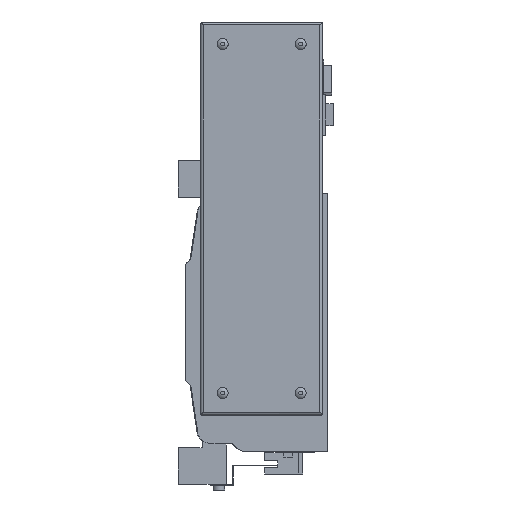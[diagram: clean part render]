
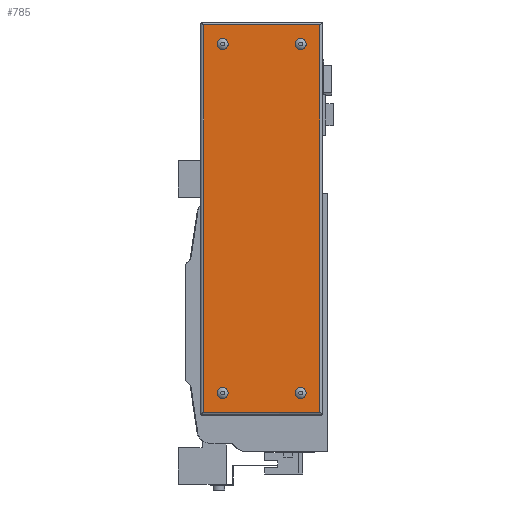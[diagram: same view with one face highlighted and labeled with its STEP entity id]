
A CAD part, left-side view. The second image highlights one B-rep face of the part: STEP entity #785.
In plain terms, the highlighted planar face has unit normal (-1, 0, 0).
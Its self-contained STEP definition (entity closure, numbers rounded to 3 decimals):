
#785 = ADVANCED_FACE( '', ( #1982, #1983, #1984, #1985, #1986 ), #1987, .F. );
#1982 = FACE_BOUND( '', #3785, .T. );
#1983 = FACE_BOUND( '', #3786, .T. );
#1984 = FACE_BOUND( '', #3787, .T. );
#1985 = FACE_BOUND( '', #3788, .T. );
#1986 = FACE_OUTER_BOUND( '', #3789, .T. );
#1987 = PLANE( '', #3790 );
#3785 = EDGE_LOOP( '', ( #5727 ) );
#3786 = EDGE_LOOP( '', ( #5728 ) );
#3787 = EDGE_LOOP( '', ( #5729 ) );
#3788 = EDGE_LOOP( '', ( #5730 ) );
#3789 = EDGE_LOOP( '', ( #5731, #5732, #5733, #5734 ) );
#3790 = AXIS2_PLACEMENT_3D( '', #5735, #5736, #5737 );
#5727 = ORIENTED_EDGE( '', *, *, #10557, .F. );
#5728 = ORIENTED_EDGE( '', *, *, #10558, .F. );
#5729 = ORIENTED_EDGE( '', *, *, #10559, .F. );
#5730 = ORIENTED_EDGE( '', *, *, #10560, .F. );
#5731 = ORIENTED_EDGE( '', *, *, #10561, .F. );
#5732 = ORIENTED_EDGE( '', *, *, #10562, .F. );
#5733 = ORIENTED_EDGE( '', *, *, #10563, .T. );
#5734 = ORIENTED_EDGE( '', *, *, #10564, .T. );
#5735 = CARTESIAN_POINT( '', ( -66., 0., 0. ) );
#5736 = DIRECTION( '', ( 1., 0., 0. ) );
#5737 = DIRECTION( '', ( 0., 0., -1. ) );
#10557 = EDGE_CURVE( '', #12591, #12591, #12592, .F. );
#10558 = EDGE_CURVE( '', #12593, #12593, #12594, .F. );
#10559 = EDGE_CURVE( '', #12595, #12595, #12596, .F. );
#10560 = EDGE_CURVE( '', #12597, #12597, #12598, .F. );
#10561 = EDGE_CURVE( '', #12599, #12600, #12601, .T. );
#10562 = EDGE_CURVE( '', #12602, #12599, #12603, .T. );
#10563 = EDGE_CURVE( '', #12602, #12604, #12605, .T. );
#10564 = EDGE_CURVE( '', #12604, #12600, #12606, .T. );
#12591 = VERTEX_POINT( '', #15544 );
#12592 = CIRCLE( '', #15545, 3.7 );
#12593 = VERTEX_POINT( '', #15546 );
#12594 = CIRCLE( '', #15547, 3.7 );
#12595 = VERTEX_POINT( '', #15548 );
#12596 = CIRCLE( '', #15549, 3.7 );
#12597 = VERTEX_POINT( '', #15550 );
#12598 = CIRCLE( '', #15551, 3.7 );
#12599 = VERTEX_POINT( '', #15552 );
#12600 = VERTEX_POINT( '', #15553 );
#12601 = LINE( '', #15554, #15555 );
#12602 = VERTEX_POINT( '', #15556 );
#12603 = LINE( '', #15557, #15558 );
#12604 = VERTEX_POINT( '', #15559 );
#12605 = LINE( '', #15560, #15561 );
#12606 = LINE( '', #15562, #15563 );
#15544 = CARTESIAN_POINT( '', ( -66., 18.5, 185.3 ) );
#15545 = AXIS2_PLACEMENT_3D( '', #19268, #19269, #19270 );
#15546 = CARTESIAN_POINT( '', ( -66., 18.5, -51.7 ) );
#15547 = AXIS2_PLACEMENT_3D( '', #19271, #19272, #19273 );
#15548 = CARTESIAN_POINT( '', ( -66., 71.5, 185.3 ) );
#15549 = AXIS2_PLACEMENT_3D( '', #19274, #19275, #19276 );
#15550 = CARTESIAN_POINT( '', ( -66., 71.5, -51.7 ) );
#15551 = AXIS2_PLACEMENT_3D( '', #19277, #19278, #19279 );
#15552 = CARTESIAN_POINT( '', ( -66., 5.5, 202. ) );
#15553 = CARTESIAN_POINT( '', ( -66., 5.5, -61. ) );
#15554 = CARTESIAN_POINT( '', ( -66., 5.5, 267. ) );
#15555 = VECTOR( '', #19280, 1000. );
#15556 = CARTESIAN_POINT( '', ( -66., 84.5, 202. ) );
#15557 = CARTESIAN_POINT( '', ( -66., 267., 202. ) );
#15558 = VECTOR( '', #19281, 1000. );
#15559 = CARTESIAN_POINT( '', ( -66., 84.5, -61. ) );
#15560 = CARTESIAN_POINT( '', ( -66., 84.5, 267. ) );
#15561 = VECTOR( '', #19282, 1000. );
#15562 = CARTESIAN_POINT( '', ( -66., 267., -61. ) );
#15563 = VECTOR( '', #19283, 1000. );
#19268 = CARTESIAN_POINT( '', ( -66., 18.5, 189. ) );
#19269 = DIRECTION( '', ( 1., 0., 0. ) );
#19270 = DIRECTION( '', ( 0., 0., -1. ) );
#19271 = CARTESIAN_POINT( '', ( -66., 18.5, -48. ) );
#19272 = DIRECTION( '', ( 1., 0., 0. ) );
#19273 = DIRECTION( '', ( 0., 0., -1. ) );
#19274 = CARTESIAN_POINT( '', ( -66., 71.5, 189. ) );
#19275 = DIRECTION( '', ( 1., 0., 0. ) );
#19276 = DIRECTION( '', ( 0., 0., -1. ) );
#19277 = CARTESIAN_POINT( '', ( -66., 71.5, -48. ) );
#19278 = DIRECTION( '', ( 1., 0., 0. ) );
#19279 = DIRECTION( '', ( 0., 0., -1. ) );
#19280 = DIRECTION( '', ( 0., 0., -1. ) );
#19281 = DIRECTION( '', ( 0., -1., 0. ) );
#19282 = DIRECTION( '', ( 0., 0., -1. ) );
#19283 = DIRECTION( '', ( 0., -1., 0. ) );
